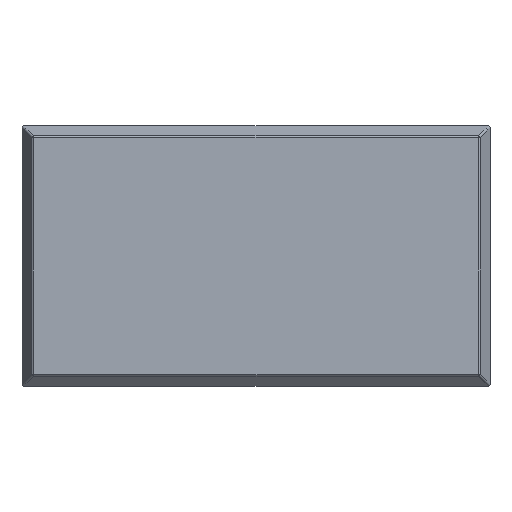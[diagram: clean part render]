
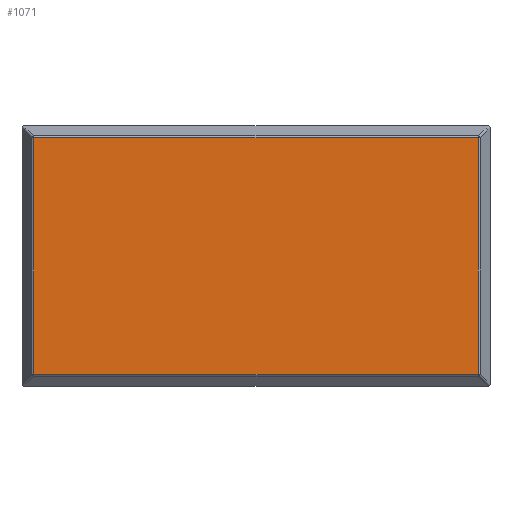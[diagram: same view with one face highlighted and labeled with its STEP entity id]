
A CAD part, top view. The second image highlights one B-rep face of the part: STEP entity #1071.
In plain terms, the highlighted planar face has unit normal (0, 0, 1).
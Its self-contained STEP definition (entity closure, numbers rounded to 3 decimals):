
#1071=ADVANCED_FACE('',(#3067),#3069,.T.);
#3067=FACE_BOUND('',#3068,.T.);
#3068=EDGE_LOOP('',(#7783,#7784,#7785,#7786));
#3069=PLANE('',#3070);
#3070=AXIS2_PLACEMENT_3D('',#3071,#3072,#3073);
#3071=CARTESIAN_POINT('',(0.,0.,0.));
#3072=DIRECTION('',(0.,0.,1.));
#3073=DIRECTION('',(0.,1.,0.));
#7783=ORIENTED_EDGE('',*,*,#8467,.T.);
#7784=ORIENTED_EDGE('',*,*,#8463,.T.);
#7785=ORIENTED_EDGE('',*,*,#8472,.T.);
#7786=ORIENTED_EDGE('',*,*,#8470,.T.);
#8463=EDGE_CURVE('',#9183,#9180,#9184,.T.);
#8467=EDGE_CURVE('',#9187,#9183,#9189,.T.);
#8470=EDGE_CURVE('',#9191,#9187,#9193,.T.);
#8472=EDGE_CURVE('',#9180,#9191,#9195,.T.);
#9180=VERTEX_POINT('',#11034);
#9183=VERTEX_POINT('',#11043);
#9184=LINE('',#11044,#11045);
#9187=VERTEX_POINT('',#11055);
#9189=LINE('',#11060,#11061);
#9191=VERTEX_POINT('',#11067);
#9193=LINE('',#11072,#11073);
#9195=LINE('',#11079,#11080);
#11034=CARTESIAN_POINT('',(-427.77,227.77,0.));
#11043=CARTESIAN_POINT('',(427.77,227.77,0.));
#11044=CARTESIAN_POINT('',(427.77,227.77,0.));
#11045=VECTOR('',#11046,1.);
#11046=DIRECTION('',(-1.,0.,0.));
#11055=CARTESIAN_POINT('',(427.77,-227.77,0.));
#11060=CARTESIAN_POINT('',(427.77,-227.77,0.));
#11061=VECTOR('',#11062,1.);
#11062=DIRECTION('',(0.,1.,0.));
#11067=CARTESIAN_POINT('',(-427.77,-227.77,0.));
#11072=CARTESIAN_POINT('',(-427.77,-227.77,0.));
#11073=VECTOR('',#11074,1.);
#11074=DIRECTION('',(1.,0.,0.));
#11079=CARTESIAN_POINT('',(-427.77,227.77,0.));
#11080=VECTOR('',#11081,1.);
#11081=DIRECTION('',(0.,-1.,0.));
